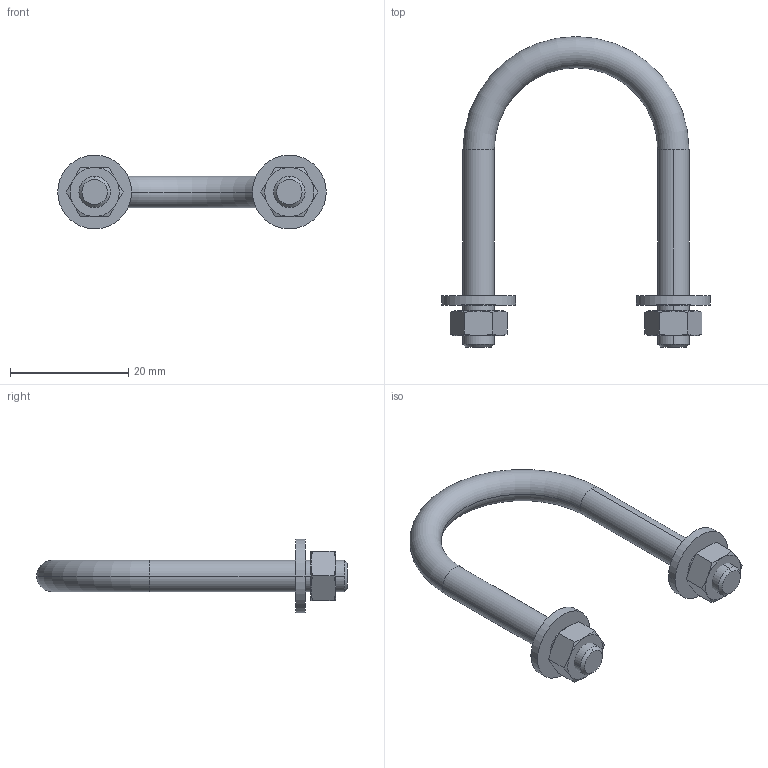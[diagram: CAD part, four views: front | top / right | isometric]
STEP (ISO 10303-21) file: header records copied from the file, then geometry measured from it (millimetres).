
FILE_DESCRIPTION (( 'STEP AP214' ), '1' );
FILE_NAME ('015.300.019.STEP', '2021-12-07T08:29:38', ( '' ), ( '' ), 'SwSTEP 2.0', 'SolidWorks 2018', '' );
FILE_SCHEMA (( 'AUTOMOTIVE_DESIGN' ));
Length unit declared in the file: millimetre
Products named in the file (4): DADI ESAGONALI NORMALI UNI 5588_M5 UNI 5588; 015.300.019; u-bolt-1; RONDELLE UNI 6592_6.4x12.5 UNI 6592
Assembly tree (5 placements, depth 2):
  015.300.019
    u-bolt-1
    DADI ESAGONALI NORMALI UNI 5588_M5 UNI 5588  x2
    RONDELLE UNI 6592_6.4x12.5 UNI 6592  x2
Bounding box: 45.5 x 52.65 x 12.5 mm (x, y, z)
Volume: 3243.5 mm3; surface area: 3090.2 mm2
Topology: 5 solids, 5 shells, 68 faces, 146 edges, 88 vertices
Faces by surface type: cone 28, plane 22, cylinder 16, torus 2
Entity records: 1338 total; most frequent: CARTESIAN_POINT 266, DIRECTION 200, ORIENTED_EDGE 172, AXIS2_PLACEMENT_3D 90, EDGE_CURVE 86, VERTEX_POINT 52, EDGE_LOOP 44, CIRCLE 42
